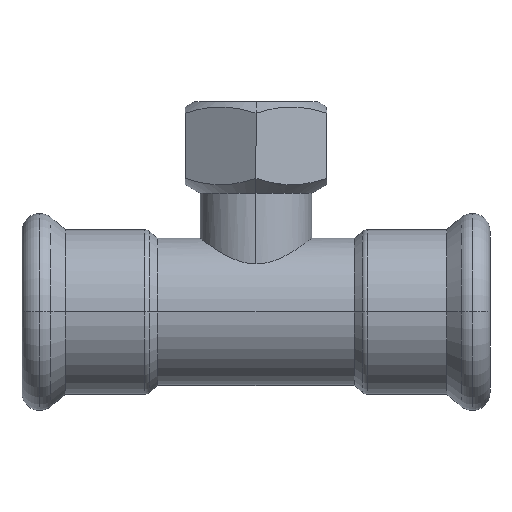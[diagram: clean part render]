
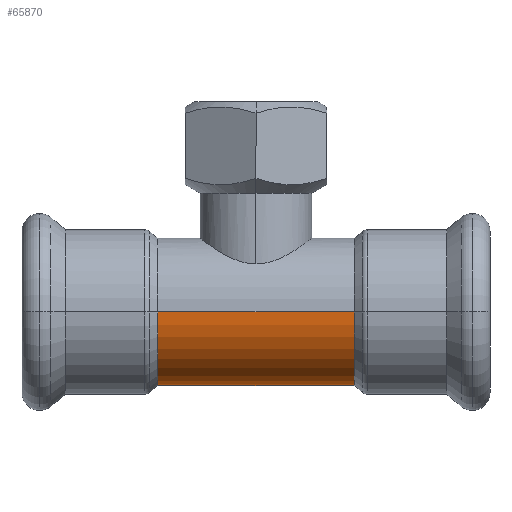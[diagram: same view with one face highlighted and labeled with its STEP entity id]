
A CAD part, left-side view. The second image highlights one B-rep face of the part: STEP entity #65870.
In plain terms, the highlighted cylindrical face has radius 14 mm (diameter 28 mm), a partial arc.
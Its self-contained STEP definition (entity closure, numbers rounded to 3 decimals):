
#21200=CARTESIAN_POINT('',(278.14,71.404,
18.7));
#21210=DIRECTION('',(0.,0.,1.));
#21220=DIRECTION('',(-1.,0.,0.));
#21230=AXIS2_PLACEMENT_3D('',#21200,#21210,#21220);
#21240=CYLINDRICAL_SURFACE('',#21230,14.);
#34150=CARTESIAN_POINT('',(264.14,71.404,
18.7));
#34160=DIRECTION('',(0.,0.,1.));
#34170=VECTOR('',#34160,1.);
#34180=LINE('',#34150,#34170);
#34190=CARTESIAN_POINT('',(264.14,71.404,
-18.7));
#34200=VERTEX_POINT('',#34190);
#34210=CARTESIAN_POINT('',(264.14,71.404,
18.7));
#34220=VERTEX_POINT('',#34210);
#34230=EDGE_CURVE('',#34200,#34220,#34180,.T.);
#34250=CARTESIAN_POINT('',(278.14,71.404,
18.7));
#34260=DIRECTION('',(0.,0.,1.));
#34270=DIRECTION('',(1.,0.,0.));
#34280=AXIS2_PLACEMENT_3D('',#34250,#34260,#34270);
#34290=CIRCLE('',#34280,14.);
#34300=CARTESIAN_POINT('',(292.14,71.404,
18.7));
#34310=VERTEX_POINT('',#34300);
#34340=CARTESIAN_POINT('',(292.14,71.404,
18.7));
#34350=DIRECTION('',(0.,0.,1.));
#34360=VECTOR('',#34350,1.);
#34370=LINE('',#34340,#34360);
#34380=CARTESIAN_POINT('',(292.14,71.404,
-18.7));
#34390=VERTEX_POINT('',#34380);
#34400=EDGE_CURVE('',#34390,#34310,#34370,.T.);
#34420=CARTESIAN_POINT('',(278.14,71.404,
-18.7));
#34430=DIRECTION('',(0.,0.,1.));
#34440=DIRECTION('',(-1.,0.,0.));
#34450=AXIS2_PLACEMENT_3D('',#34420,#34430,#34440);
#34460=CIRCLE('',#34450,14.);
#45120=EDGE_CURVE('',#34310,#34220,#34290,.T.);
#65740=EDGE_CURVE('',#34390,#34200,#34460,.T.);
#65810=ORIENTED_EDGE('',*,*,#34230,.T.);
#65820=ORIENTED_EDGE('',*,*,#65740,.T.);
#65830=ORIENTED_EDGE('',*,*,#34400,.F.);
#65840=ORIENTED_EDGE('',*,*,#45120,.F.);
#65850=EDGE_LOOP('',(#65840,#65830,#65820,#65810));
#65860=FACE_OUTER_BOUND('',#65850,.T.);
#65870=ADVANCED_FACE('',(#65860),#21240,.T.);
